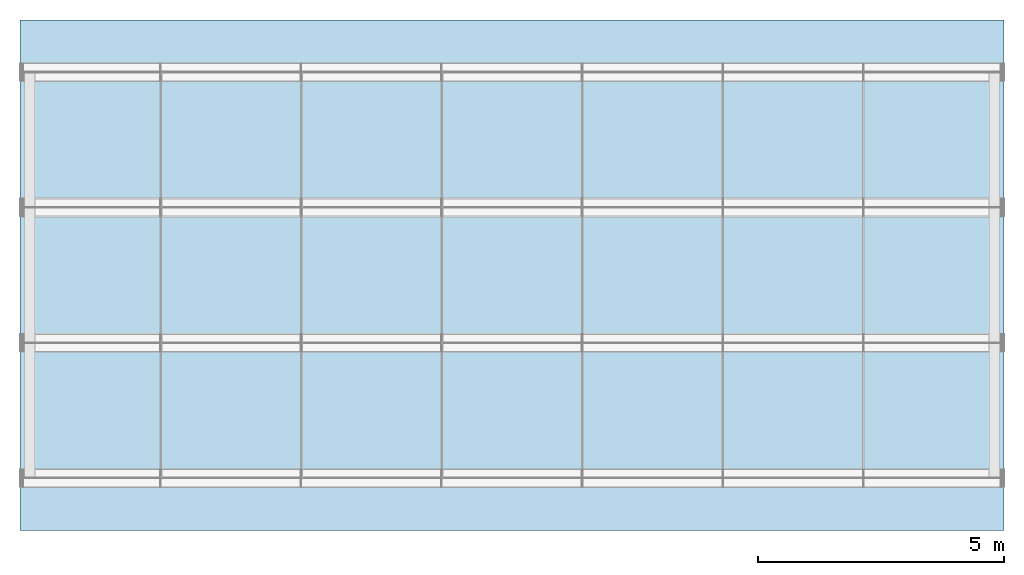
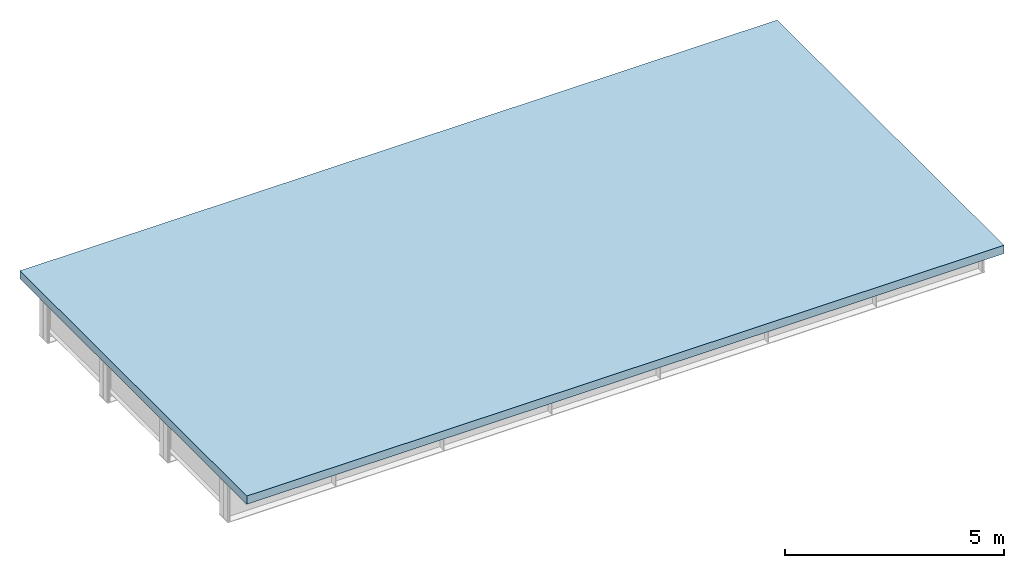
# One storey, part 7 of 12: 1 slab.
"""IFC4 building model written with IfcOpenShell, lengths in metres."""

from ifc_helpers import new_model, si_unit, frame, origin, origin_with_axes, place, context, subcontext, project, spatial, polyline, outline, extrude, element, save


model = new_model("IFC4")

# Units and contexts
model_context = context("Model", 3, precision=1e-05, world=origin())
body_context = subcontext(model_context, "Body", "Model", "MODEL_VIEW")
ifc_project = project(units=[si_unit("LENGTHUNIT", "METRE"), si_unit("AREAUNIT", "SQUARE_METRE"), si_unit("VOLUMEUNIT", "CUBIC_METRE"), si_unit("PLANEANGLEUNIT", "RADIAN")], contexts=[model_context])

# Site, building, storey
site_placement = place(None, origin_with_axes())
site = spatial("IfcSite", under=ifc_project, at=site_placement, Name="Default Site")
building_placement = place(site_placement, origin_with_axes())
building = spatial("IfcBuilding", under=site, at=building_placement, Name="Bridge Structure")
storey_placement = place(building_placement, origin_with_axes())
storey = spatial("IfcBuildingStorey", under=building, at=storey_placement, Name="Superstructure")

# Slab
slab_placement = place(storey_placement, frame((0.0, 0.0, 0.523), z_axis=(0.0, 0.0, 1.0), x_axis=(1.0, 0.0, 0.0)))
element("IfcSlab", 1, at=slab_placement, inside=storey, Name="Deck Slab", context=body_context, shape_type="SweptSolid", body=[
    extrude(outline(polyline([(0.0, -5.1875), (20.0, -5.1875), (20.0, 5.1875), (0.0, 5.1875), (0.0, -5.1875)])), origin_with_axes(), (0.0, 0.0, 1.0), 0.23),
])

save(model, "model.ifc")
